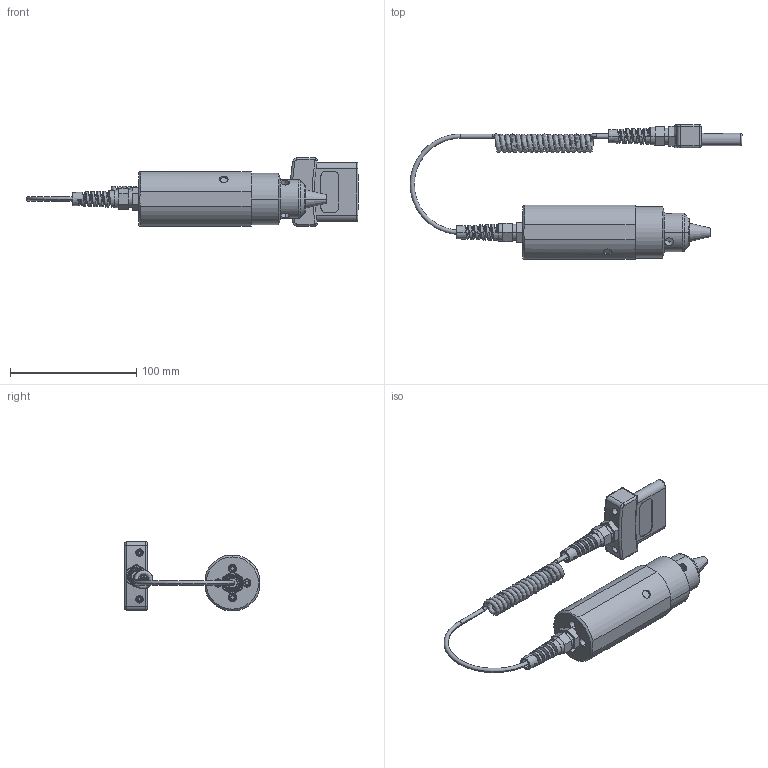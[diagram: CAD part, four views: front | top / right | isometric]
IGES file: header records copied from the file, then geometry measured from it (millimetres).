
Global section: file name: No Iges File Name specified; native system: Autodesk Inventor 2010; preprocessor: AutoDesk Inventor Iges Exporter R2010; author: mlampen; date: 20170601.111514; units: inch
Bounding box: 262.98 x 106.78 x 54.05 mm (x, y, z)
Volume: 225931.5 mm3; surface area: 49036.2 mm2
Topology: 4 solids, 4 shells, 652 faces, 1635 edges, 1030 vertices
Faces by surface type: plane 187, bspline 152, revolution 135, cylinder 84, cone 66, torus 24, sphere 4
Full cylindrical faces by diameter (mm): 2.02 x14, 2.845 x14
